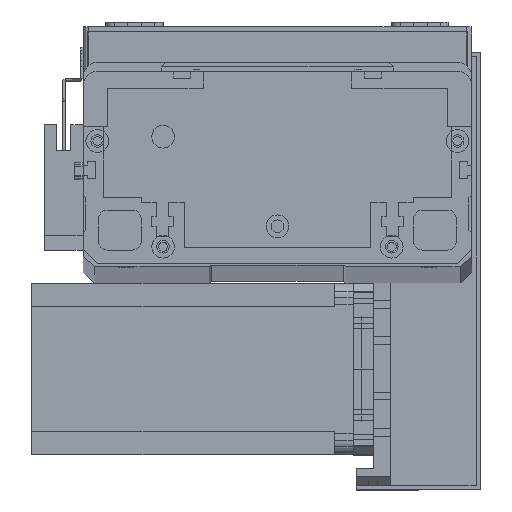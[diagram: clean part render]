
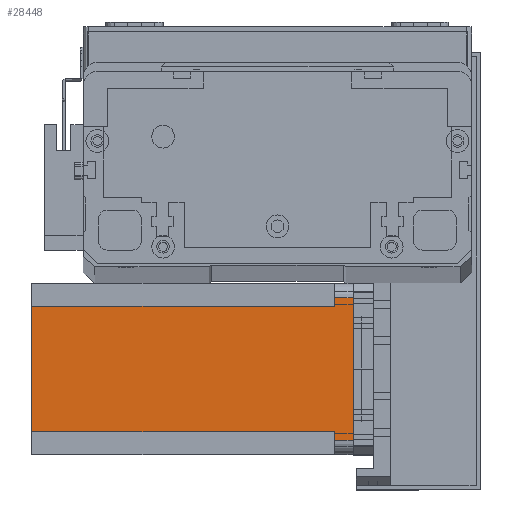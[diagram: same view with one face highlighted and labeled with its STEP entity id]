
A CAD part, top view. The second image highlights one B-rep face of the part: STEP entity #28448.
In plain terms, the highlighted planar face has unit normal (0, 0, 1) as drawn and (0, -1, 0) by its records, which use the part's own axes.
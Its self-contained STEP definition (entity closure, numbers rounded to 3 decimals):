
#606 = VERTEX_POINT ( 'NONE', #4083 ) ;
#711 = CARTESIAN_POINT ( 'NONE',  ( 5., 0., 0. ) ) ;
#755 = EDGE_CURVE ( 'NONE', #28205, #16741, #7875, .T. ) ;
#832 = CARTESIAN_POINT ( 'NONE',  ( 5., 0., -112.5 ) ) ;
#1342 = PLANE ( 'NONE',  #22367 ) ;
#2386 = DIRECTION ( 'NONE',  ( 0., 0., 1. ) ) ;
#3123 = CARTESIAN_POINT ( 'NONE',  ( 55., 0., -112.5 ) ) ;
#3183 = EDGE_CURVE ( 'NONE', #10485, #22636, #29744, .T. ) ;
#3377 = EDGE_CURVE ( 'NONE', #19972, #606, #18725, .T. ) ;
#4057 = VECTOR ( 'NONE', #19230, 1000. ) ;
#4083 = CARTESIAN_POINT ( 'NONE',  ( 52., 0., -112.5 ) ) ;
#4108 = ORIENTED_EDGE ( 'NONE', *, *, #3183, .F. ) ;
#5544 = DIRECTION ( 'NONE',  ( 0., 0., 1. ) ) ;
#6227 = DIRECTION ( 'NONE',  ( 0., -1., 0. ) ) ;
#7160 = DIRECTION ( 'NONE',  ( 1., 0., 0. ) ) ;
#7371 = LINE ( 'NONE', #3123, #13068 ) ;
#7713 = EDGE_LOOP ( 'NONE', ( #17910, #21673, #4108, #17652, #29285, #28441, #26229, #8637 ) ) ;
#7875 = LINE ( 'NONE', #9519, #13593 ) ;
#8486 = EDGE_CURVE ( 'NONE', #16741, #22636, #7371, .T. ) ;
#8637 = ORIENTED_EDGE ( 'NONE', *, *, #25776, .F. ) ;
#9042 = LINE ( 'NONE', #832, #9374 ) ;
#9374 = VECTOR ( 'NONE', #15394, 1000. ) ;
#9478 = CARTESIAN_POINT ( 'NONE',  ( 52., 0., -112.5 ) ) ;
#9519 = CARTESIAN_POINT ( 'NONE',  ( 52., 0., -6.5 ) ) ;
#9779 = LINE ( 'NONE', #9478, #4057 ) ;
#10273 = VERTEX_POINT ( 'NONE', #26733 ) ;
#10485 = VERTEX_POINT ( 'NONE', #711 ) ;
#10952 = VECTOR ( 'NONE', #2386, 1000. ) ;
#12294 = VECTOR ( 'NONE', #7160, 1000. ) ;
#13068 = VECTOR ( 'NONE', #5544, 1000. ) ;
#13593 = VECTOR ( 'NONE', #31351, 1000. ) ;
#14136 = CARTESIAN_POINT ( 'NONE',  ( 8., 0., -112.5 ) ) ;
#14541 = CARTESIAN_POINT ( 'NONE',  ( 52., 0., -6.5 ) ) ;
#15394 = DIRECTION ( 'NONE',  ( 0., 0., -1. ) ) ;
#15895 = CARTESIAN_POINT ( 'NONE',  ( 0., 0., -112.5 ) ) ;
#15966 = CARTESIAN_POINT ( 'NONE',  ( 8., 0., -6.5 ) ) ;
#16101 = FACE_OUTER_BOUND ( 'NONE', #7713, .T. ) ;
#16181 = EDGE_CURVE ( 'NONE', #19972, #19223, #31075, .T. ) ;
#16540 = CARTESIAN_POINT ( 'NONE',  ( 8., 0., -6.5 ) ) ;
#16741 = VERTEX_POINT ( 'NONE', #29320 ) ;
#16858 = VECTOR ( 'NONE', #20953, 1000. ) ;
#17652 = ORIENTED_EDGE ( 'NONE', *, *, #26018, .T. ) ;
#17910 = ORIENTED_EDGE ( 'NONE', *, *, #755, .T. ) ;
#18725 = LINE ( 'NONE', #26474, #12294 ) ;
#19223 = VERTEX_POINT ( 'NONE', #15966 ) ;
#19230 = DIRECTION ( 'NONE',  ( 0., 0., -1. ) ) ;
#19972 = VERTEX_POINT ( 'NONE', #14136 ) ;
#20953 = DIRECTION ( 'NONE',  ( 1., 0., 0. ) ) ;
#21673 = ORIENTED_EDGE ( 'NONE', *, *, #8486, .T. ) ;
#22367 = AXIS2_PLACEMENT_3D ( 'NONE', #15895, #6227, #23217 ) ;
#22636 = VERTEX_POINT ( 'NONE', #22647 ) ;
#22647 = CARTESIAN_POINT ( 'NONE',  ( 55., 0., 0. ) ) ;
#23217 = DIRECTION ( 'NONE',  ( 0., 0., -1. ) ) ;
#24454 = VECTOR ( 'NONE', #26284, 1000. ) ;
#25179 = LINE ( 'NONE', #16540, #24454 ) ;
#25776 = EDGE_CURVE ( 'NONE', #28205, #606, #9779, .T. ) ;
#26018 = EDGE_CURVE ( 'NONE', #10485, #10273, #9042, .T. ) ;
#26229 = ORIENTED_EDGE ( 'NONE', *, *, #3377, .T. ) ;
#26284 = DIRECTION ( 'NONE',  ( -1., 0., 0. ) ) ;
#26474 = CARTESIAN_POINT ( 'NONE',  ( 0., 0., -112.5 ) ) ;
#26676 = CARTESIAN_POINT ( 'NONE',  ( 8., 0., -112.5 ) ) ;
#26733 = CARTESIAN_POINT ( 'NONE',  ( 5., 0., -6.5 ) ) ;
#28205 = VERTEX_POINT ( 'NONE', #14541 ) ;
#28441 = ORIENTED_EDGE ( 'NONE', *, *, #16181, .F. ) ;
#28448 = ADVANCED_FACE ( 'NONE', ( #16101 ), #1342, .T. ) ;
#28568 = EDGE_CURVE ( 'NONE', #19223, #10273, #25179, .T. ) ;
#29285 = ORIENTED_EDGE ( 'NONE', *, *, #28568, .F. ) ;
#29320 = CARTESIAN_POINT ( 'NONE',  ( 55., 0., -6.5 ) ) ;
#29744 = LINE ( 'NONE', #30606, #16858 ) ;
#30606 = CARTESIAN_POINT ( 'NONE',  ( 0., 0., 0. ) ) ;
#31075 = LINE ( 'NONE', #26676, #10952 ) ;
#31351 = DIRECTION ( 'NONE',  ( 1., 0., 0. ) ) ;
